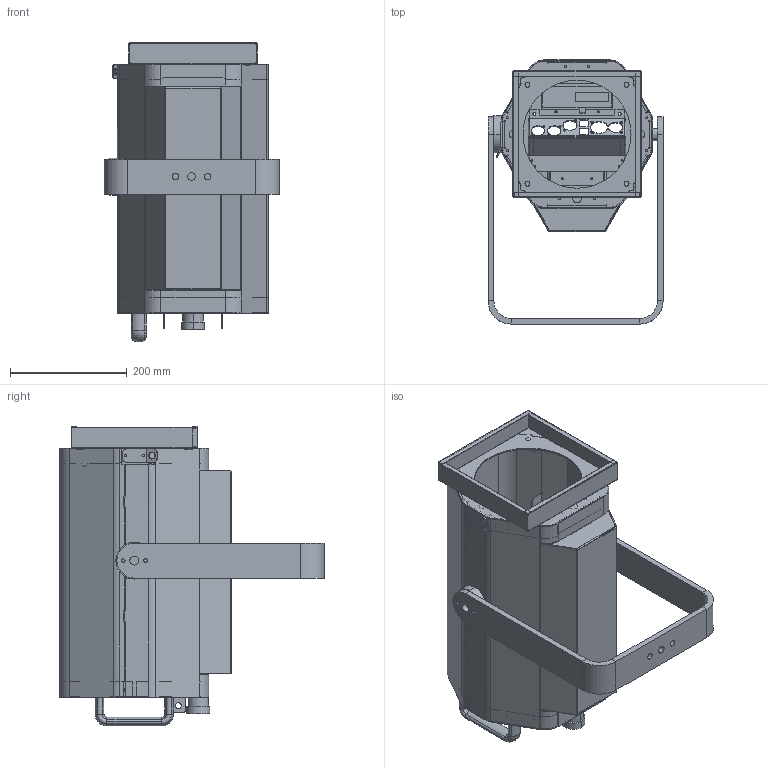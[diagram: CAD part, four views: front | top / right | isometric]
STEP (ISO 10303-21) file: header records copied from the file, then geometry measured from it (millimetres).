
FILE_DESCRIPTION (( 'STEP AP214' ), '1' );
FILE_NAME ('370LF.STEP', '2025-10-07T07:36:44', ( '' ), ( '' ), 'SwSTEP 2.0', 'SolidWorks 2023', '' );
FILE_SCHEMA (( 'AUTOMOTIVE_DESIGN' ));
Length unit declared in the file: millimetre
Products named in the file (1): 370LF
Bounding box: 301.5 x 452.45 x 513.7 mm (x, y, z)
Volume: 1776412.4 mm3; surface area: 1855265.7 mm2
Topology: 25 solids, 25 shells, 2871 faces, 7170 edges, 4469 vertices
Faces by surface type: plane 1670, cylinder 1049, torus 82, cone 56, bspline 14
Entity records: 86905 total; most frequent: CARTESIAN_POINT 15751, DIRECTION 15109, ORIENTED_EDGE 14332, EDGE_CURVE 7166, AXIS2_PLACEMENT_3D 5148, LINE 4813, VECTOR 4813, VERTEX_POINT 4469
